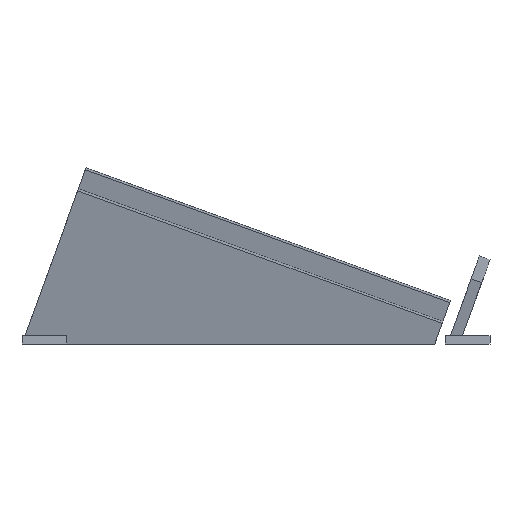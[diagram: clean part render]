
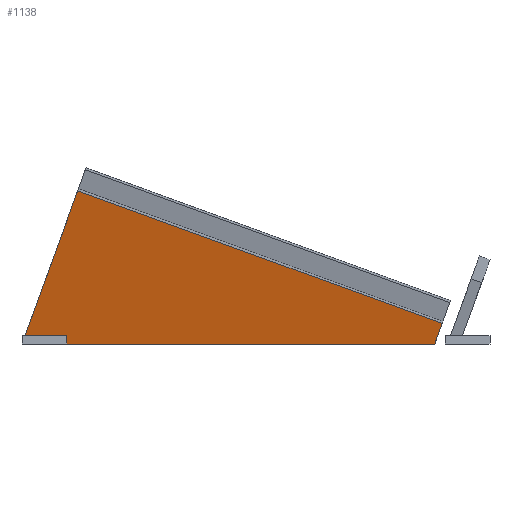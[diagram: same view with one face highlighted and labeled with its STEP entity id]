
A CAD part, front view. The second image highlights one B-rep face of the part: STEP entity #1138.
In plain terms, the highlighted planar face has unit normal (-0.071, -0.978, -0.195).
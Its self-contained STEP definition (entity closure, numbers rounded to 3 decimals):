
#716 = PLANE('',#717);
#717 = AXIS2_PLACEMENT_3D('',#718,#719,#720);
#718 = CARTESIAN_POINT('',(-10.226,-9.687,0.));
#719 = DIRECTION('',(0.,0.,1.));
#720 = DIRECTION('',(1.,0.,-0.));
#770 = PLANE('',#771);
#771 = AXIS2_PLACEMENT_3D('',#772,#773,#774);
#772 = CARTESIAN_POINT('',(-10.226,-9.687,3.));
#773 = DIRECTION('',(0.,0.,1.));
#774 = DIRECTION('',(1.,0.,-0.));
#833 = VERTEX_POINT('',#834);
#834 = CARTESIAN_POINT('',(5.774,12.921,3.));
#848 = PLANE('',#849);
#849 = AXIS2_PLACEMENT_3D('',#850,#851,#852);
#850 = CARTESIAN_POINT('',(5.774,-9.687,0.));
#851 = DIRECTION('',(1.,0.,-0.));
#852 = DIRECTION('',(0.,0.,1.));
#860 = EDGE_CURVE('',#861,#833,#863,.T.);
#861 = VERTEX_POINT('',#862);
#862 = CARTESIAN_POINT('',(-9.135,14.005,3.));
#863 = SURFACE_CURVE('',#864,(#868,#874),.PCURVE_S1.);
#864 = LINE('',#865,#866);
#865 = CARTESIAN_POINT('',(-33.782,15.797,3.));
#866 = VECTOR('',#867,1.);
#867 = DIRECTION('',(0.997,-0.073,0.));
#868 = PCURVE('',#770,#869);
#869 = DEFINITIONAL_REPRESENTATION('',(#870),#873);
#870 = B_SPLINE_CURVE_WITH_KNOTS('',1,(#871,#872),.UNSPECIFIED.,.F.,.F.,
  (2,2),(24.712,39.66),.PIECEWISE_BEZIER_KNOTS.);
#871 = CARTESIAN_POINT('',(1.092,23.692));
#872 = CARTESIAN_POINT('',(16.,22.608));
#873 = ( GEOMETRIC_REPRESENTATION_CONTEXT(2) 
PARAMETRIC_REPRESENTATION_CONTEXT() REPRESENTATION_CONTEXT('2D SPACE',''
  ) );
#874 = PCURVE('',#875,#880);
#875 = PLANE('',#876);
#876 = AXIS2_PLACEMENT_3D('',#877,#878,#879);
#877 = CARTESIAN_POINT('',(-57.15,43.846,
    -128.923));
#878 = DIRECTION('',(0.071,0.978,0.195));
#879 = DIRECTION('',(0.335,-0.208,0.919));
#880 = DEFINITIONAL_REPRESENTATION('',(#881),#884);
#881 = B_SPLINE_CURVE_WITH_KNOTS('',1,(#882,#883),.UNSPECIFIED.,.F.,.F.,
  (2,2),(24.712,39.66),.PIECEWISE_BEZIER_KNOTS.);
#882 = CARTESIAN_POINT('',(143.526,0.));
#883 = CARTESIAN_POINT('',(148.738,14.009));
#884 = ( GEOMETRIC_REPRESENTATION_CONTEXT(2) 
PARAMETRIC_REPRESENTATION_CONTEXT() REPRESENTATION_CONTEXT('2D SPACE',''
  ) );
#901 = PLANE('',#902);
#902 = AXIS2_PLACEMENT_3D('',#903,#904,#905);
#903 = CARTESIAN_POINT('',(-57.15,43.846,
    -128.923));
#904 = DIRECTION('',(0.94,0.,-0.342));
#905 = DIRECTION('',(0.335,-0.208,0.919));
#1098 = VERTEX_POINT('',#1099);
#1099 = CARTESIAN_POINT('',(5.774,13.52,
    0.));
#1120 = EDGE_CURVE('',#833,#1098,#1121,.T.);
#1121 = SURFACE_CURVE('',#1122,(#1126,#1132),.PCURVE_S1.);
#1122 = LINE('',#1123,#1124);
#1123 = CARTESIAN_POINT('',(5.774,26.038,
    -62.672));
#1124 = VECTOR('',#1125,1.);
#1125 = DIRECTION('',(-0.,0.196,-0.981));
#1126 = PCURVE('',#848,#1127);
#1127 = DEFINITIONAL_REPRESENTATION('',(#1128),#1131);
#1128 = B_SPLINE_CURVE_WITH_KNOTS('',1,(#1129,#1130),.UNSPECIFIED.,.F.,
  .F.,(2,2),(-66.969,-63.91),.PIECEWISE_BEZIER_KNOTS.);
#1129 = CARTESIAN_POINT('',(3.,-22.608));
#1130 = CARTESIAN_POINT('',(0.,-23.207));
#1131 = ( GEOMETRIC_REPRESENTATION_CONTEXT(2) 
PARAMETRIC_REPRESENTATION_CONTEXT() REPRESENTATION_CONTEXT('2D SPACE',''
  ) );
#1132 = PCURVE('',#875,#1133);
#1133 = DEFINITIONAL_REPRESENTATION('',(#1134),#1137);
#1134 = B_SPLINE_CURVE_WITH_KNOTS('',1,(#1135,#1136),.UNSPECIFIED.,.F.,
  .F.,(2,2),(-66.969,-63.91),.PIECEWISE_BEZIER_KNOTS.);
#1135 = CARTESIAN_POINT('',(148.738,14.009));
#1136 = CARTESIAN_POINT('',(145.856,15.035));
#1137 = ( GEOMETRIC_REPRESENTATION_CONTEXT(2) 
PARAMETRIC_REPRESENTATION_CONTEXT() REPRESENTATION_CONTEXT('2D SPACE',''
  ) );
#1138 = ADVANCED_FACE('',(#1139),#875,.F.);
#1139 = FACE_BOUND('',#1140,.F.);
#1140 = EDGE_LOOP('',(#1141,#1171,#1191,#1192,#1193,#1216));
#1141 = ORIENTED_EDGE('',*,*,#1142,.F.);
#1142 = EDGE_CURVE('',#1143,#1145,#1147,.T.);
#1143 = VERTEX_POINT('',#1144);
#1144 = CARTESIAN_POINT('',(137.694,3.93,0.));
#1145 = VERTEX_POINT('',#1146);
#1146 = CARTESIAN_POINT('',(140.376,2.263,
    7.368));
#1147 = SURFACE_CURVE('',#1148,(#1152,#1159),.PCURVE_S1.);
#1148 = LINE('',#1149,#1150);
#1149 = CARTESIAN_POINT('',(73.467,43.846,
    -176.464));
#1150 = VECTOR('',#1151,1.);
#1151 = DIRECTION('',(0.335,-0.208,0.919));
#1152 = PCURVE('',#875,#1153);
#1153 = DEFINITIONAL_REPRESENTATION('',(#1154),#1158);
#1154 = LINE('',#1155,#1156);
#1155 = CARTESIAN_POINT('',(0.,139.));
#1156 = VECTOR('',#1157,1.);
#1157 = DIRECTION('',(1.,0.));
#1158 = ( GEOMETRIC_REPRESENTATION_CONTEXT(2) 
PARAMETRIC_REPRESENTATION_CONTEXT() REPRESENTATION_CONTEXT('2D SPACE',''
  ) );
#1159 = PCURVE('',#1160,#1165);
#1160 = PLANE('',#1161);
#1161 = AXIS2_PLACEMENT_3D('',#1162,#1163,#1164);
#1162 = CARTESIAN_POINT('',(73.467,43.846,
    -176.464));
#1163 = DIRECTION('',(0.94,0.,-0.342));
#1164 = DIRECTION('',(0.335,-0.208,0.919));
#1165 = DEFINITIONAL_REPRESENTATION('',(#1166),#1170);
#1166 = LINE('',#1167,#1168);
#1167 = CARTESIAN_POINT('',(0.,0.));
#1168 = VECTOR('',#1169,1.);
#1169 = DIRECTION('',(1.,0.));
#1170 = ( GEOMETRIC_REPRESENTATION_CONTEXT(2) 
PARAMETRIC_REPRESENTATION_CONTEXT() REPRESENTATION_CONTEXT('2D SPACE',''
  ) );
#1171 = ORIENTED_EDGE('',*,*,#1172,.F.);
#1172 = EDGE_CURVE('',#1098,#1143,#1173,.T.);
#1173 = SURFACE_CURVE('',#1174,(#1178,#1184),.PCURVE_S1.);
#1174 = LINE('',#1175,#1176);
#1175 = CARTESIAN_POINT('',(-259.609,32.813,
    0.));
#1176 = VECTOR('',#1177,1.);
#1177 = DIRECTION('',(0.997,-0.073,0.));
#1178 = PCURVE('',#875,#1179);
#1179 = DEFINITIONAL_REPRESENTATION('',(#1180),#1183);
#1180 = B_SPLINE_CURVE_WITH_KNOTS('',1,(#1181,#1182),.UNSPECIFIED.,.F.,
  .F.,(2,2),(250.041,398.352),.PIECEWISE_BEZIER_KNOTS.);
#1181 = CARTESIAN_POINT('',(140.262,0.));
#1182 = CARTESIAN_POINT('',(191.984,139.));
#1183 = ( GEOMETRIC_REPRESENTATION_CONTEXT(2) 
PARAMETRIC_REPRESENTATION_CONTEXT() REPRESENTATION_CONTEXT('2D SPACE',''
  ) );
#1184 = PCURVE('',#716,#1185);
#1185 = DEFINITIONAL_REPRESENTATION('',(#1186),#1190);
#1186 = LINE('',#1187,#1188);
#1187 = CARTESIAN_POINT('',(-249.382,42.5));
#1188 = VECTOR('',#1189,1.);
#1189 = DIRECTION('',(0.997,-0.073));
#1190 = ( GEOMETRIC_REPRESENTATION_CONTEXT(2) 
PARAMETRIC_REPRESENTATION_CONTEXT() REPRESENTATION_CONTEXT('2D SPACE',''
  ) );
#1191 = ORIENTED_EDGE('',*,*,#1120,.F.);
#1192 = ORIENTED_EDGE('',*,*,#860,.F.);
#1193 = ORIENTED_EDGE('',*,*,#1194,.T.);
#1194 = EDGE_CURVE('',#861,#1195,#1197,.T.);
#1195 = VERTEX_POINT('',#1196);
#1196 = CARTESIAN_POINT('',(9.759,2.263,
    54.909));
#1197 = SURFACE_CURVE('',#1198,(#1202,#1209),.PCURVE_S1.);
#1198 = LINE('',#1199,#1200);
#1199 = CARTESIAN_POINT('',(-57.15,43.846,
    -128.923));
#1200 = VECTOR('',#1201,1.);
#1201 = DIRECTION('',(0.335,-0.208,0.919));
#1202 = PCURVE('',#875,#1203);
#1203 = DEFINITIONAL_REPRESENTATION('',(#1204),#1208);
#1204 = LINE('',#1205,#1206);
#1205 = CARTESIAN_POINT('',(0.,0.));
#1206 = VECTOR('',#1207,1.);
#1207 = DIRECTION('',(1.,0.));
#1208 = ( GEOMETRIC_REPRESENTATION_CONTEXT(2) 
PARAMETRIC_REPRESENTATION_CONTEXT() REPRESENTATION_CONTEXT('2D SPACE',''
  ) );
#1209 = PCURVE('',#901,#1210);
#1210 = DEFINITIONAL_REPRESENTATION('',(#1211),#1215);
#1211 = LINE('',#1212,#1213);
#1212 = CARTESIAN_POINT('',(0.,0.));
#1213 = VECTOR('',#1214,1.);
#1214 = DIRECTION('',(1.,0.));
#1215 = ( GEOMETRIC_REPRESENTATION_CONTEXT(2) 
PARAMETRIC_REPRESENTATION_CONTEXT() REPRESENTATION_CONTEXT('2D SPACE',''
  ) );
#1216 = ORIENTED_EDGE('',*,*,#1217,.T.);
#1217 = EDGE_CURVE('',#1195,#1145,#1218,.T.);
#1218 = SURFACE_CURVE('',#1219,(#1223,#1230),.PCURVE_S1.);
#1219 = LINE('',#1220,#1221);
#1220 = CARTESIAN_POINT('',(9.759,2.263,
    54.909));
#1221 = VECTOR('',#1222,1.);
#1222 = DIRECTION('',(0.94,0.,-0.342));
#1223 = PCURVE('',#875,#1224);
#1224 = DEFINITIONAL_REPRESENTATION('',(#1225),#1229);
#1225 = LINE('',#1226,#1227);
#1226 = CARTESIAN_POINT('',(200.,0.));
#1227 = VECTOR('',#1228,1.);
#1228 = DIRECTION('',(0.,1.));
#1229 = ( GEOMETRIC_REPRESENTATION_CONTEXT(2) 
PARAMETRIC_REPRESENTATION_CONTEXT() REPRESENTATION_CONTEXT('2D SPACE',''
  ) );
#1230 = PCURVE('',#1231,#1236);
#1231 = PLANE('',#1232);
#1232 = AXIS2_PLACEMENT_3D('',#1233,#1234,#1235);
#1233 = CARTESIAN_POINT('',(9.759,2.263,
    54.909));
#1234 = DIRECTION('',(0.335,-0.208,0.919));
#1235 = DIRECTION('',(0.94,0.,-0.342));
#1236 = DEFINITIONAL_REPRESENTATION('',(#1237),#1241);
#1237 = LINE('',#1238,#1239);
#1238 = CARTESIAN_POINT('',(0.,0.));
#1239 = VECTOR('',#1240,1.);
#1240 = DIRECTION('',(1.,0.));
#1241 = ( GEOMETRIC_REPRESENTATION_CONTEXT(2) 
PARAMETRIC_REPRESENTATION_CONTEXT() REPRESENTATION_CONTEXT('2D SPACE',''
  ) );
